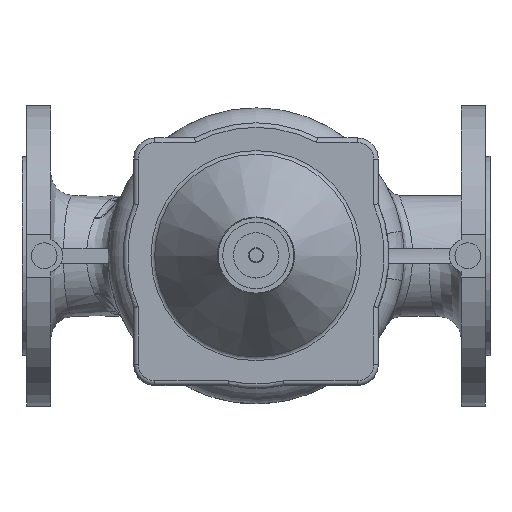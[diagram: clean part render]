
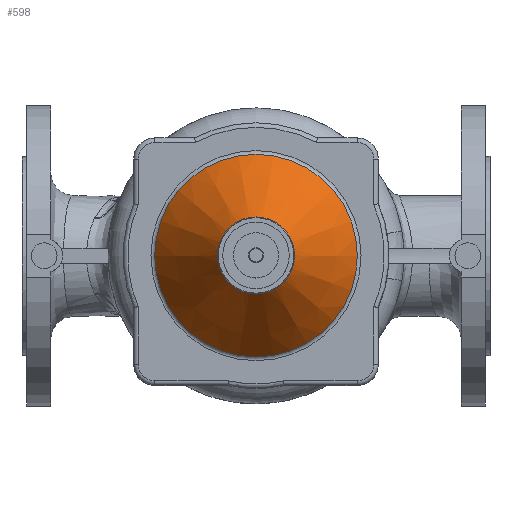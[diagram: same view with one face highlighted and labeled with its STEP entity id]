
A CAD part, top view. The second image highlights one B-rep face of the part: STEP entity #598.
In plain terms, the highlighted conical face has half-angle 34.743 degrees and reference radius 68 mm.
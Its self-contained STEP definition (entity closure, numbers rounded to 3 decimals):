
#35=CONICAL_SURFACE('',#3015,68.,34.743);
#101=FACE_BOUND('',#956,.T.);
#102=FACE_BOUND('',#957,.T.);
#598=ADVANCED_FACE('',(#101,#102),#35,.T.);
#956=EDGE_LOOP('',(#1476));
#957=EDGE_LOOP('',(#1477));
#1217=CIRCLE('',#3013,25.535);
#1218=CIRCLE('',#3014,67.105);
#1476=ORIENTED_EDGE('',*,*,#2532,.T.);
#1477=ORIENTED_EDGE('',*,*,#2533,.T.);
#2254=VERTEX_POINT('',#4785);
#2255=VERTEX_POINT('',#4787);
#2532=EDGE_CURVE('',#2254,#2254,#1217,.T.);
#2533=EDGE_CURVE('',#2255,#2255,#1218,.T.);
#3013=AXIS2_PLACEMENT_3D('',#4784,#3439,#3440);
#3014=AXIS2_PLACEMENT_3D('',#4786,#3441,#3442);
#3015=AXIS2_PLACEMENT_3D('',#4788,#3443,#3444);
#3439=DIRECTION('',(0.,0.,-1.));
#3440=DIRECTION('',(-1.,0.,0.));
#3441=DIRECTION('',(0.,0.,1.));
#3442=DIRECTION('',(-1.,0.,0.));
#3443=DIRECTION('',(0.,0.,-1.));
#3444=DIRECTION('',(-1.,0.,0.));
#4784=CARTESIAN_POINT('',(0.,0.,199.729));
#4785=CARTESIAN_POINT('',(-25.535,0.,199.729));
#4786=CARTESIAN_POINT('',(0.,0.,139.79));
#4787=CARTESIAN_POINT('',(-67.105,0.,139.79));
#4788=CARTESIAN_POINT('',(0.,0.,138.5));
